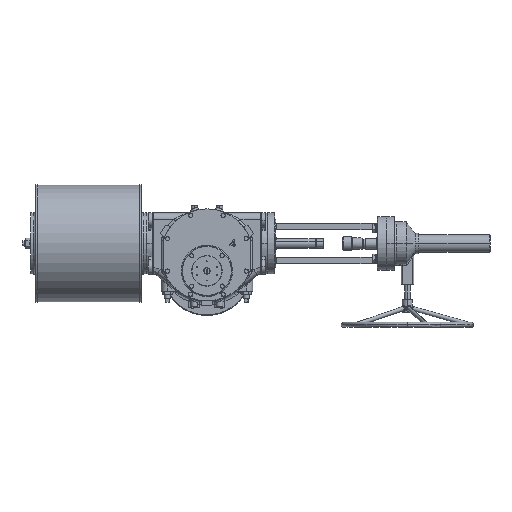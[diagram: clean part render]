
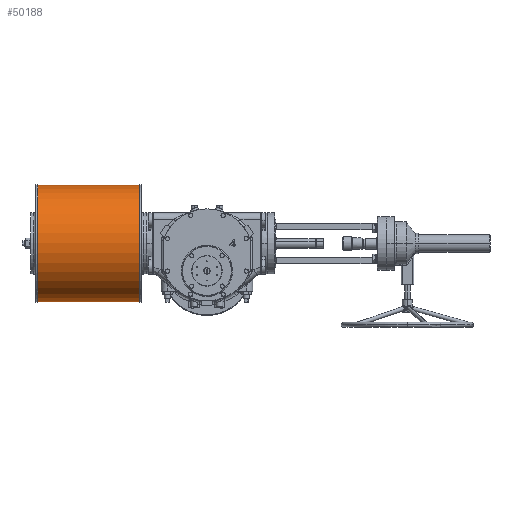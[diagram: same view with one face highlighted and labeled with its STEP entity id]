
A CAD part, top view. The second image highlights one B-rep face of the part: STEP entity #50188.
In plain terms, the highlighted cylindrical face has radius 228.6 mm (diameter 457.2 mm), a partial arc.
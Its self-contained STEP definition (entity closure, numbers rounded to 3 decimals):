
#4668 = CARTESIAN_POINT ( 'NONE',  ( -264.5, 108., 82.5 ) ) ;
#5305 = DIRECTION ( 'NONE',  ( 1., 0., 0. ) ) ;
#7815 = CARTESIAN_POINT ( 'NONE',  ( -264.5, -120.6, 82.5 ) ) ;
#9159 = CARTESIAN_POINT ( 'NONE',  ( -1313.078, 336.6, 82.5 ) ) ;
#9427 = VECTOR ( 'NONE', #48920, 1000. ) ;
#9755 = CARTESIAN_POINT ( 'NONE',  ( -666.5, 108., 82.5 ) ) ;
#11649 = ORIENTED_EDGE ( 'NONE', *, *, #31617, .F. ) ;
#12604 = EDGE_CURVE ( 'NONE', #41754, #32231, #81713, .T. ) ;
#22584 = DIRECTION ( 'NONE',  ( 0., 0., 1. ) ) ;
#23299 = CARTESIAN_POINT ( 'NONE',  ( -1313.078, -120.6, 82.5 ) ) ;
#31617 = EDGE_CURVE ( 'NONE', #34627, #60168, #59608, .T. ) ;
#32231 = VERTEX_POINT ( 'NONE', #71374 ) ;
#33208 = CARTESIAN_POINT ( 'NONE',  ( -1313.078, 108., 82.5 ) ) ;
#34627 = VERTEX_POINT ( 'NONE', #77457 ) ;
#37169 = DIRECTION ( 'NONE',  ( -1., 0., 0. ) ) ;
#37800 = LINE ( 'NONE', #23299, #48459 ) ;
#37909 = EDGE_CURVE ( 'NONE', #60168, #32231, #42494, .T. ) ;
#40011 = DIRECTION ( 'NONE',  ( 0., 1., 0. ) ) ;
#41754 = VERTEX_POINT ( 'NONE', #7815 ) ;
#42494 = LINE ( 'NONE', #9159, #9427 ) ;
#44403 = AXIS2_PLACEMENT_3D ( 'NONE', #33208, #78118, #59314 ) ;
#44807 = AXIS2_PLACEMENT_3D ( 'NONE', #4668, #37169, #40011 ) ;
#45606 = FACE_OUTER_BOUND ( 'NONE', #66068, .T. ) ;
#48459 = VECTOR ( 'NONE', #5305, 1000. ) ;
#48920 = DIRECTION ( 'NONE',  ( 1., 0., 0. ) ) ;
#50188 = ADVANCED_FACE ( 'NONE', ( #45606 ), #79392, .T. ) ;
#53414 = ORIENTED_EDGE ( 'NONE', *, *, #61690, .T. ) ;
#56551 = ORIENTED_EDGE ( 'NONE', *, *, #12604, .T. ) ;
#59314 = DIRECTION ( 'NONE',  ( 0., 1., 0. ) ) ;
#59608 = CIRCLE ( 'NONE', #73263, 228.6 ) ;
#60168 = VERTEX_POINT ( 'NONE', #76783 ) ;
#61690 = EDGE_CURVE ( 'NONE', #34627, #41754, #37800, .T. ) ;
#66068 = EDGE_LOOP ( 'NONE', ( #11649, #53414, #56551, #83185 ) ) ;
#71374 = CARTESIAN_POINT ( 'NONE',  ( -264.5, 336.6, 82.5 ) ) ;
#73263 = AXIS2_PLACEMENT_3D ( 'NONE', #9755, #81175, #22584 ) ;
#76783 = CARTESIAN_POINT ( 'NONE',  ( -666.5, 336.6, 82.5 ) ) ;
#77457 = CARTESIAN_POINT ( 'NONE',  ( -666.5, -120.6, 82.5 ) ) ;
#78118 = DIRECTION ( 'NONE',  ( 1., 0., 0. ) ) ;
#79392 = CYLINDRICAL_SURFACE ( 'NONE', #44403, 228.6 ) ;
#81175 = DIRECTION ( 'NONE',  ( -1., 0., 0. ) ) ;
#81713 = CIRCLE ( 'NONE', #44807, 228.6 ) ;
#83185 = ORIENTED_EDGE ( 'NONE', *, *, #37909, .F. ) ;
